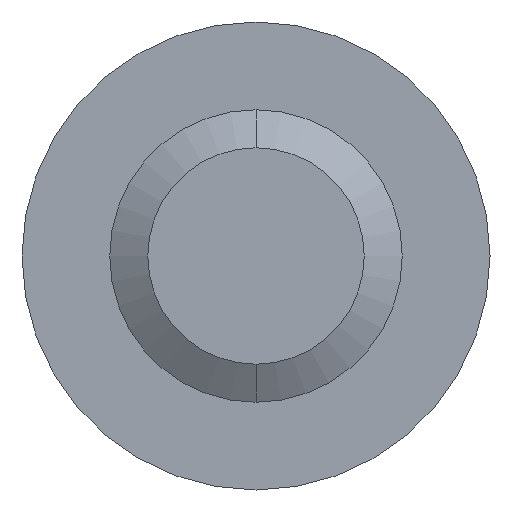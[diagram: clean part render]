
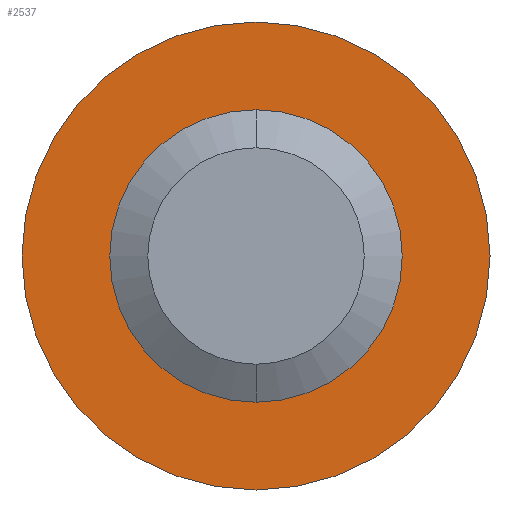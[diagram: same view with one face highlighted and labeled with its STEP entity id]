
A CAD part, front view. The second image highlights one B-rep face of the part: STEP entity #2537.
In plain terms, the highlighted planar face has unit normal (0, -1, 0).
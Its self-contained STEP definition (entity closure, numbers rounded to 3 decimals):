
#362 = CARTESIAN_POINT ( 'NONE',  ( 0., 50., 5. ) ) ;
#471 = ORIENTED_EDGE ( 'NONE', *, *, #2831, .F. ) ;
#508 = EDGE_LOOP ( 'NONE', ( #471, #3428 ) ) ;
#521 = DIRECTION ( 'NONE',  ( 0., 0., 1. ) ) ;
#609 = CARTESIAN_POINT ( 'NONE',  ( 0., 50., 0. ) ) ;
#673 = VERTEX_POINT ( 'NONE', #3671 ) ;
#716 = ORIENTED_EDGE ( 'NONE', *, *, #1042, .T. ) ;
#835 = CIRCLE ( 'NONE', #1098, 5. ) ;
#863 = FACE_BOUND ( 'NONE', #1489, .T. ) ;
#917 = DIRECTION ( 'NONE',  ( 0., 1., 0. ) ) ;
#1015 = DIRECTION ( 'NONE',  ( 0., 0., 1. ) ) ;
#1042 = EDGE_CURVE ( 'NONE', #2284, #4063, #835, .T. ) ;
#1098 = AXIS2_PLACEMENT_3D ( 'NONE', #3091, #2400, #2419 ) ;
#1200 = EDGE_CURVE ( 'NONE', #4063, #2284, #1572, .T. ) ;
#1320 = CIRCLE ( 'NONE', #3295, 8. ) ;
#1489 = EDGE_LOOP ( 'NONE', ( #716, #1678 ) ) ;
#1572 = CIRCLE ( 'NONE', #3747, 5. ) ;
#1678 = ORIENTED_EDGE ( 'NONE', *, *, #1200, .T. ) ;
#2141 = CARTESIAN_POINT ( 'NONE',  ( 0., 50., 0. ) ) ;
#2154 = CARTESIAN_POINT ( 'NONE',  ( 0., 50., 0. ) ) ;
#2284 = VERTEX_POINT ( 'NONE', #3806 ) ;
#2307 = CIRCLE ( 'NONE', #4024, 8. ) ;
#2400 = DIRECTION ( 'NONE',  ( 0., 1., 0. ) ) ;
#2419 = DIRECTION ( 'NONE',  ( 0., 0., 1. ) ) ;
#2453 = FACE_OUTER_BOUND ( 'NONE', #508, .T. ) ;
#2537 = ADVANCED_FACE ( 'NONE', ( #2453, #863 ), #3370, .F. ) ;
#2696 = AXIS2_PLACEMENT_3D ( 'NONE', #2141, #3077, #3106 ) ;
#2831 = EDGE_CURVE ( 'NONE', #673, #4064, #1320, .T. ) ;
#2957 = CARTESIAN_POINT ( 'NONE',  ( 0., 50., 0. ) ) ;
#2964 = EDGE_CURVE ( 'NONE', #4064, #673, #2307, .T. ) ;
#3077 = DIRECTION ( 'NONE',  ( 0., 1., 0. ) ) ;
#3091 = CARTESIAN_POINT ( 'NONE',  ( 0., 50., 0. ) ) ;
#3106 = DIRECTION ( 'NONE',  ( 0., 0., 1. ) ) ;
#3253 = DIRECTION ( 'NONE',  ( 0., 1., 0. ) ) ;
#3295 = AXIS2_PLACEMENT_3D ( 'NONE', #2957, #3253, #3311 ) ;
#3311 = DIRECTION ( 'NONE',  ( 0., 0., 1. ) ) ;
#3370 = PLANE ( 'NONE',  #2696 ) ;
#3428 = ORIENTED_EDGE ( 'NONE', *, *, #2964, .F. ) ;
#3524 = CARTESIAN_POINT ( 'NONE',  ( 0., 50., 8. ) ) ;
#3671 = CARTESIAN_POINT ( 'NONE',  ( 0., 50., -8. ) ) ;
#3747 = AXIS2_PLACEMENT_3D ( 'NONE', #2154, #917, #1015 ) ;
#3806 = CARTESIAN_POINT ( 'NONE',  ( 0., 50., -5. ) ) ;
#4009 = DIRECTION ( 'NONE',  ( 0., 1., 0. ) ) ;
#4024 = AXIS2_PLACEMENT_3D ( 'NONE', #609, #4009, #521 ) ;
#4063 = VERTEX_POINT ( 'NONE', #362 ) ;
#4064 = VERTEX_POINT ( 'NONE', #3524 ) ;
